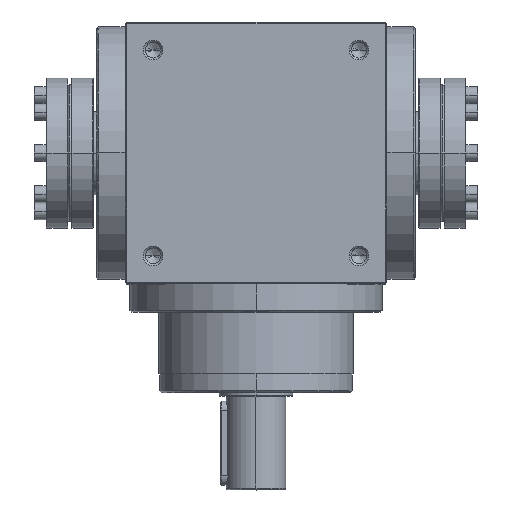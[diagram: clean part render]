
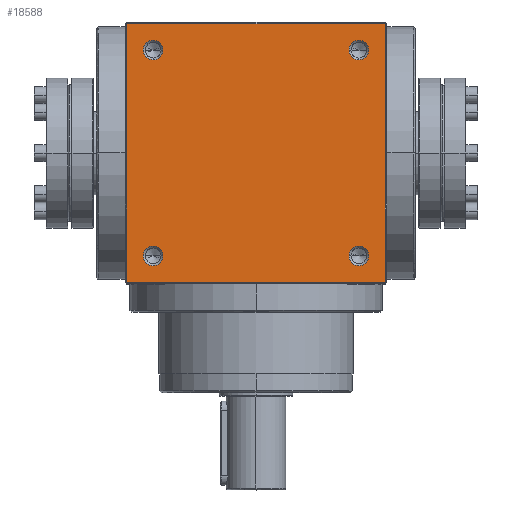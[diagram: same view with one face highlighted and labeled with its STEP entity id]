
A CAD part, top view. The second image highlights one B-rep face of the part: STEP entity #18588.
In plain terms, the highlighted planar face has unit normal (0, 0, 1).
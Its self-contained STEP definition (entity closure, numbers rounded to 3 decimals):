
#279 = ORIENTED_EDGE ( 'NONE', *, *, #4908, .F. ) ;
#355 = LINE ( 'NONE', #1374, #9532 ) ;
#383 = EDGE_LOOP ( 'NONE', ( #12811, #19201 ) ) ;
#458 = ORIENTED_EDGE ( 'NONE', *, *, #8930, .T. ) ;
#1014 = CARTESIAN_POINT ( 'NONE',  ( 55., -55., 70. ) ) ;
#1029 = ORIENTED_EDGE ( 'NONE', *, *, #2063, .F. ) ;
#1249 = CARTESIAN_POINT ( 'NONE',  ( 60.25, 55., 70. ) ) ;
#1374 = CARTESIAN_POINT ( 'NONE',  ( 0., -69., 70. ) ) ;
#2052 = CARTESIAN_POINT ( 'NONE',  ( -69., 0., 70. ) ) ;
#2063 = EDGE_CURVE ( 'NONE', #10109, #14893, #18381, .T. ) ;
#2273 = VECTOR ( 'NONE', #14181, 1000. ) ;
#2721 = DIRECTION ( 'NONE',  ( 1., 0., 0. ) ) ;
#2854 = EDGE_CURVE ( 'NONE', #11053, #8265, #12543, .T. ) ;
#2855 = CARTESIAN_POINT ( 'NONE',  ( 0., 69., 70. ) ) ;
#3217 = EDGE_CURVE ( 'NONE', #19164, #21971, #12340, .T. ) ;
#3370 = ORIENTED_EDGE ( 'NONE', *, *, #2854, .F. ) ;
#3623 = VECTOR ( 'NONE', #13807, 1000. ) ;
#4611 = DIRECTION ( 'NONE',  ( 0., 0., -1. ) ) ;
#4652 = AXIS2_PLACEMENT_3D ( 'NONE', #15359, #4959, #17078 ) ;
#4775 = DIRECTION ( 'NONE',  ( 0., 0., 1. ) ) ;
#4908 = EDGE_CURVE ( 'NONE', #19518, #17236, #10589, .T. ) ;
#4959 = DIRECTION ( 'NONE',  ( 0., 0., 1. ) ) ;
#4967 = EDGE_LOOP ( 'NONE', ( #12616, #19189 ) ) ;
#4974 = CARTESIAN_POINT ( 'NONE',  ( -60.25, 55., 70. ) ) ;
#5248 = EDGE_CURVE ( 'NONE', #14893, #10109, #13079, .T. ) ;
#5322 = DIRECTION ( 'NONE',  ( 0., 0., 1. ) ) ;
#5373 = EDGE_CURVE ( 'NONE', #8265, #11053, #21886, .T. ) ;
#5514 = CARTESIAN_POINT ( 'NONE',  ( 49.75, 55., 70. ) ) ;
#5767 = EDGE_CURVE ( 'NONE', #22188, #10405, #12550, .T. ) ;
#6139 = EDGE_CURVE ( 'NONE', #12664, #14383, #17386, .T. ) ;
#6220 = ORIENTED_EDGE ( 'NONE', *, *, #5373, .F. ) ;
#6228 = CARTESIAN_POINT ( 'NONE',  ( 55., 55., 70. ) ) ;
#6575 = ORIENTED_EDGE ( 'NONE', *, *, #6913, .F. ) ;
#6855 = EDGE_CURVE ( 'NONE', #10405, #22188, #14332, .T. ) ;
#6913 = EDGE_CURVE ( 'NONE', #21971, #19518, #11050, .T. ) ;
#6926 = AXIS2_PLACEMENT_3D ( 'NONE', #19899, #9631, #21627 ) ;
#7168 = FACE_OUTER_BOUND ( 'NONE', #15994, .T. ) ;
#7717 = FACE_BOUND ( 'NONE', #18301, .T. ) ;
#7969 = DIRECTION ( 'NONE',  ( 1., 0., 0. ) ) ;
#7994 = CARTESIAN_POINT ( 'NONE',  ( 69., -69., 70. ) ) ;
#8189 = CARTESIAN_POINT ( 'NONE',  ( -60.25, -55., 70. ) ) ;
#8265 = VERTEX_POINT ( 'NONE', #11466 ) ;
#8341 = CARTESIAN_POINT ( 'NONE',  ( 69., -69., 70. ) ) ;
#8679 = CARTESIAN_POINT ( 'NONE',  ( -69., 69., 70. ) ) ;
#8831 = AXIS2_PLACEMENT_3D ( 'NONE', #9605, #21597, #11343 ) ;
#8930 = EDGE_CURVE ( 'NONE', #19164, #17236, #355, .T. ) ;
#9307 = DIRECTION ( 'NONE',  ( 0., 0., 1. ) ) ;
#9482 = AXIS2_PLACEMENT_3D ( 'NONE', #6228, #18334, #7969 ) ;
#9532 = VECTOR ( 'NONE', #13486, 1000. ) ;
#9605 = CARTESIAN_POINT ( 'NONE',  ( -55., -55., 70. ) ) ;
#9631 = DIRECTION ( 'NONE',  ( 0., 0., 1. ) ) ;
#10109 = VERTEX_POINT ( 'NONE', #5514 ) ;
#10405 = VERTEX_POINT ( 'NONE', #18795 ) ;
#10589 = LINE ( 'NONE', #15538, #3623 ) ;
#11050 = LINE ( 'NONE', #2855, #21772 ) ;
#11053 = VERTEX_POINT ( 'NONE', #4974 ) ;
#11343 = DIRECTION ( 'NONE',  ( 1., 0., 0. ) ) ;
#11466 = CARTESIAN_POINT ( 'NONE',  ( -49.75, 55., 70. ) ) ;
#11526 = PLANE ( 'NONE',  #18941 ) ;
#11825 = FACE_BOUND ( 'NONE', #19356, .T. ) ;
#12052 = AXIS2_PLACEMENT_3D ( 'NONE', #19587, #9307, #21315 ) ;
#12277 = ORIENTED_EDGE ( 'NONE', *, *, #5248, .F. ) ;
#12340 = LINE ( 'NONE', #2052, #2273 ) ;
#12352 = CARTESIAN_POINT ( 'NONE',  ( -49.75, -55., 70. ) ) ;
#12377 = FACE_BOUND ( 'NONE', #383, .T. ) ;
#12436 = AXIS2_PLACEMENT_3D ( 'NONE', #1014, #13123, #2721 ) ;
#12543 = CIRCLE ( 'NONE', #6926, 5.25 ) ;
#12550 = CIRCLE ( 'NONE', #20870, 5.25 ) ;
#12616 = ORIENTED_EDGE ( 'NONE', *, *, #6139, .F. ) ;
#12664 = VERTEX_POINT ( 'NONE', #12352 ) ;
#12811 = ORIENTED_EDGE ( 'NONE', *, *, #5767, .F. ) ;
#12907 = EDGE_CURVE ( 'NONE', #14383, #12664, #15306, .T. ) ;
#13079 = CIRCLE ( 'NONE', #9482, 5.25 ) ;
#13123 = DIRECTION ( 'NONE',  ( 0., 0., 1. ) ) ;
#13259 = DIRECTION ( 'NONE',  ( 1., 0., 0. ) ) ;
#13486 = DIRECTION ( 'NONE',  ( 1., 0., 0. ) ) ;
#13532 = CARTESIAN_POINT ( 'NONE',  ( 69., 69., 70. ) ) ;
#13807 = DIRECTION ( 'NONE',  ( 0., -1., 0. ) ) ;
#14181 = DIRECTION ( 'NONE',  ( 0., 1., 0. ) ) ;
#14332 = CIRCLE ( 'NONE', #12436, 5.25 ) ;
#14383 = VERTEX_POINT ( 'NONE', #8189 ) ;
#14893 = VERTEX_POINT ( 'NONE', #1249 ) ;
#15188 = CARTESIAN_POINT ( 'NONE',  ( 55., -55., 70. ) ) ;
#15306 = CIRCLE ( 'NONE', #8831, 5.25 ) ;
#15338 = ORIENTED_EDGE ( 'NONE', *, *, #3217, .F. ) ;
#15359 = CARTESIAN_POINT ( 'NONE',  ( -55., 55., 70. ) ) ;
#15538 = CARTESIAN_POINT ( 'NONE',  ( 69., 0., 70. ) ) ;
#15725 = CARTESIAN_POINT ( 'NONE',  ( -55., -55., 70. ) ) ;
#15994 = EDGE_LOOP ( 'NONE', ( #458, #279, #6575, #15338 ) ) ;
#16425 = FACE_BOUND ( 'NONE', #4967, .T. ) ;
#16741 = DIRECTION ( 'NONE',  ( -1., 0., 0. ) ) ;
#16924 = DIRECTION ( 'NONE',  ( 1., 0., 0. ) ) ;
#17078 = DIRECTION ( 'NONE',  ( 1., 0., 0. ) ) ;
#17236 = VERTEX_POINT ( 'NONE', #8341 ) ;
#17386 = CIRCLE ( 'NONE', #17932, 5.25 ) ;
#17441 = DIRECTION ( 'NONE',  ( 1., 0., 0. ) ) ;
#17887 = CARTESIAN_POINT ( 'NONE',  ( -69., -69., 70. ) ) ;
#17932 = AXIS2_PLACEMENT_3D ( 'NONE', #15725, #5322, #17441 ) ;
#18301 = EDGE_LOOP ( 'NONE', ( #6220, #3370 ) ) ;
#18334 = DIRECTION ( 'NONE',  ( 0., 0., 1. ) ) ;
#18381 = CIRCLE ( 'NONE', #12052, 5.25 ) ;
#18588 = ADVANCED_FACE ( 'NONE', ( #7717, #11825, #16425, #12377, #7168 ), #11526, .F. ) ;
#18795 = CARTESIAN_POINT ( 'NONE',  ( 49.75, -55., 70. ) ) ;
#18941 = AXIS2_PLACEMENT_3D ( 'NONE', #7994, #4611, #16741 ) ;
#19164 = VERTEX_POINT ( 'NONE', #17887 ) ;
#19189 = ORIENTED_EDGE ( 'NONE', *, *, #12907, .F. ) ;
#19201 = ORIENTED_EDGE ( 'NONE', *, *, #6855, .F. ) ;
#19356 = EDGE_LOOP ( 'NONE', ( #12277, #1029 ) ) ;
#19518 = VERTEX_POINT ( 'NONE', #13532 ) ;
#19587 = CARTESIAN_POINT ( 'NONE',  ( 55., 55., 70. ) ) ;
#19899 = CARTESIAN_POINT ( 'NONE',  ( -55., 55., 70. ) ) ;
#20870 = AXIS2_PLACEMENT_3D ( 'NONE', #15188, #4775, #16924 ) ;
#21315 = DIRECTION ( 'NONE',  ( 1., 0., 0. ) ) ;
#21528 = CARTESIAN_POINT ( 'NONE',  ( 60.25, -55., 70. ) ) ;
#21597 = DIRECTION ( 'NONE',  ( 0., 0., 1. ) ) ;
#21627 = DIRECTION ( 'NONE',  ( 1., 0., 0. ) ) ;
#21772 = VECTOR ( 'NONE', #13259, 1000. ) ;
#21886 = CIRCLE ( 'NONE', #4652, 5.25 ) ;
#21971 = VERTEX_POINT ( 'NONE', #8679 ) ;
#22188 = VERTEX_POINT ( 'NONE', #21528 ) ;
